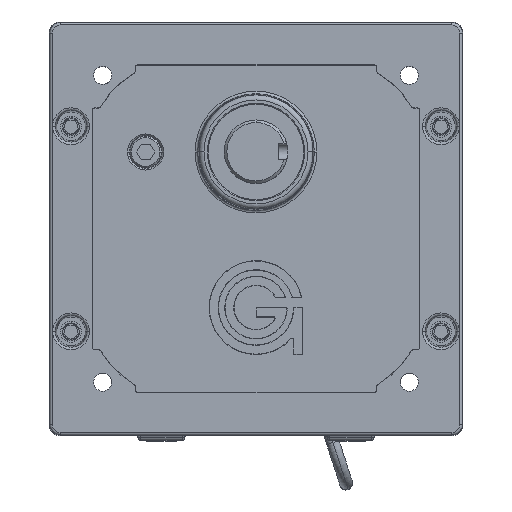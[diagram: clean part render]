
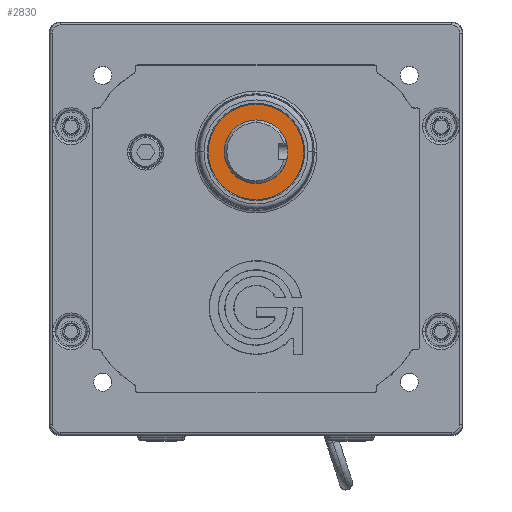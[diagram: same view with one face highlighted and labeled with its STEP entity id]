
A CAD part, top view. The second image highlights one B-rep face of the part: STEP entity #2830.
In plain terms, the highlighted planar face has unit normal (0, 0, 1).
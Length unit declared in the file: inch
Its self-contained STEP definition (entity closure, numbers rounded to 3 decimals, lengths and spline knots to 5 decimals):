
#2830 = ADVANCED_FACE ( 'NONE', ( #11921, #11920 ), #11919, .F. ) ;
#2831 = EDGE_LOOP ( 'NONE', ( #2832, #2833 ) ) ;
#2832 = ORIENTED_EDGE ( 'NONE', *, *, #2905, .F. ) ;
#2833 = ORIENTED_EDGE ( 'NONE', *, *, #2848, .F. ) ;
#2834 = EDGE_LOOP ( 'NONE', ( #2835, #2887 ) ) ;
#2835 = ORIENTED_EDGE ( 'NONE', *, *, #2836, .T. ) ;
#2836 = EDGE_CURVE ( 'NONE', #2837, #2886, #11912, .T. ) ;
#2837 = VERTEX_POINT ( 'NONE', #11972 ) ;
#2846 = VERTEX_POINT ( 'NONE', #11951 ) ;
#2848 = EDGE_CURVE ( 'NONE', #2846, #2849, #11950, .T. ) ;
#2849 = VERTEX_POINT ( 'NONE', #11945 ) ;
#2886 = VERTEX_POINT ( 'NONE', #12072 ) ;
#2887 = ORIENTED_EDGE ( 'NONE', *, *, #2888, .T. ) ;
#2888 = EDGE_CURVE ( 'NONE', #2886, #2837, #12071, .T. ) ;
#2905 = EDGE_CURVE ( 'NONE', #2849, #2846, #12042, .T. ) ;
#11910 = DIRECTION ( 'NONE',  ( 0., 0., 1. ) ) ;
#11911 = AXIS2_PLACEMENT_3D ( 'NONE', #11918, #11910, #11973 ) ;
#11912 = CIRCLE ( 'NONE', #11911, 0.5625 ) ;
#11914 = DIRECTION ( 'NONE',  ( -1., 0., 0. ) ) ;
#11915 = DIRECTION ( 'NONE',  ( 0., 0., -1. ) ) ;
#11916 = CARTESIAN_POINT ( 'NONE',  ( 0., 1.281, 0.4012 ) ) ;
#11917 = AXIS2_PLACEMENT_3D ( 'NONE', #11916, #11915, #11914 ) ;
#11918 = CARTESIAN_POINT ( 'NONE',  ( 0., 0.906, 0.4012 ) ) ;
#11919 = PLANE ( 'NONE',  #11917 ) ;
#11920 = FACE_OUTER_BOUND ( 'NONE', #2834, .T. ) ;
#11921 = FACE_BOUND ( 'NONE', #2831, .T. ) ;
#11945 = CARTESIAN_POINT ( 'NONE',  ( 0.375, 0.906, 0.4012 ) ) ;
#11946 = DIRECTION ( 'NONE',  ( 1., 0., 0. ) ) ;
#11947 = DIRECTION ( 'NONE',  ( 0., 0., 1. ) ) ;
#11948 = CARTESIAN_POINT ( 'NONE',  ( 0., 0.906, 0.4012 ) ) ;
#11949 = AXIS2_PLACEMENT_3D ( 'NONE', #11948, #11947, #11946 ) ;
#11950 = CIRCLE ( 'NONE', #11949, 0.375 ) ;
#11951 = CARTESIAN_POINT ( 'NONE',  ( -0.375, 0.906, 0.4012 ) ) ;
#11972 = CARTESIAN_POINT ( 'NONE',  ( 0.5625, 0.906, 0.4012 ) ) ;
#11973 = DIRECTION ( 'NONE',  ( 1., 0., 0. ) ) ;
#12041 = CARTESIAN_POINT ( 'NONE',  ( 0., 0.906, 0.4012 ) ) ;
#12042 = CIRCLE ( 'NONE', #12108, 0.375 ) ;
#12067 = DIRECTION ( 'NONE',  ( 1., 0., 0. ) ) ;
#12068 = DIRECTION ( 'NONE',  ( 0., 0., 1. ) ) ;
#12069 = CARTESIAN_POINT ( 'NONE',  ( 0., 0.906, 0.4012 ) ) ;
#12070 = AXIS2_PLACEMENT_3D ( 'NONE', #12069, #12068, #12067 ) ;
#12071 = CIRCLE ( 'NONE', #12070, 0.5625 ) ;
#12072 = CARTESIAN_POINT ( 'NONE',  ( -0.5625, 0.906, 0.4012 ) ) ;
#12106 = DIRECTION ( 'NONE',  ( 1., 0., 0. ) ) ;
#12107 = DIRECTION ( 'NONE',  ( 0., 0., 1. ) ) ;
#12108 = AXIS2_PLACEMENT_3D ( 'NONE', #12041, #12107, #12106 ) ;
